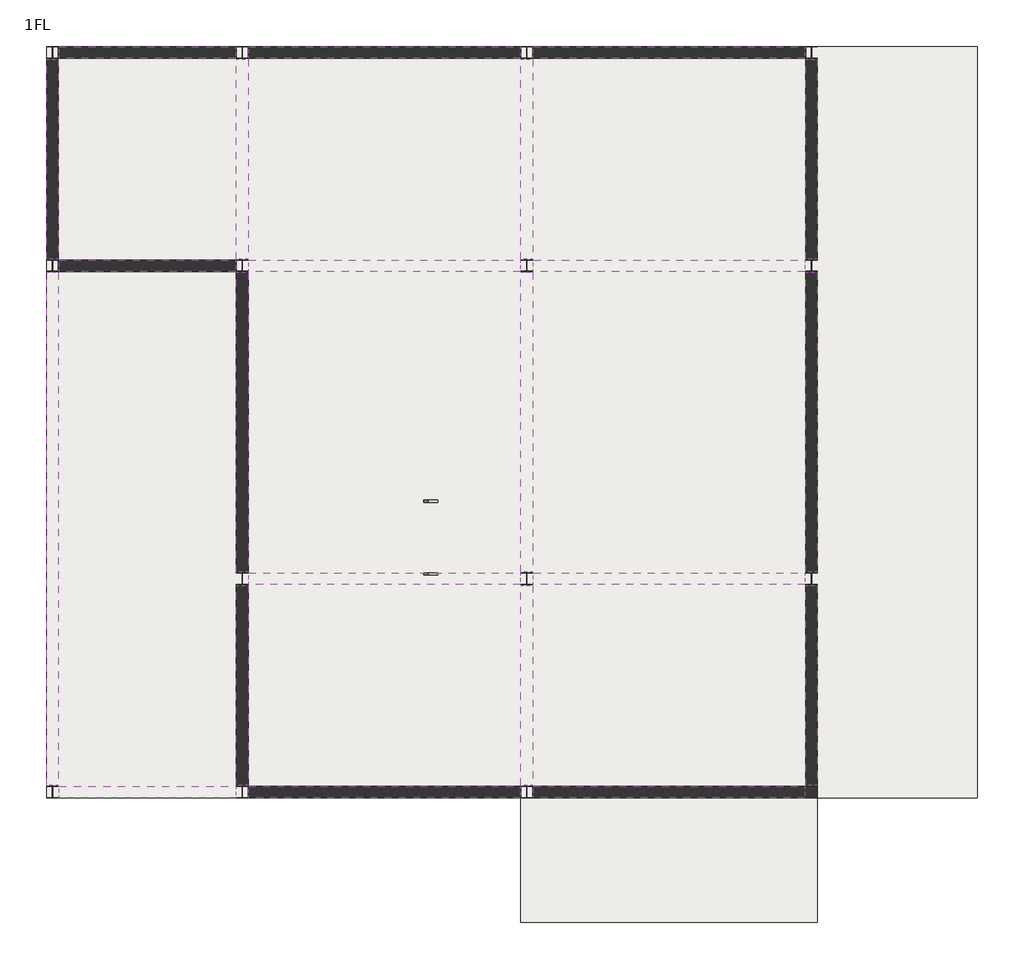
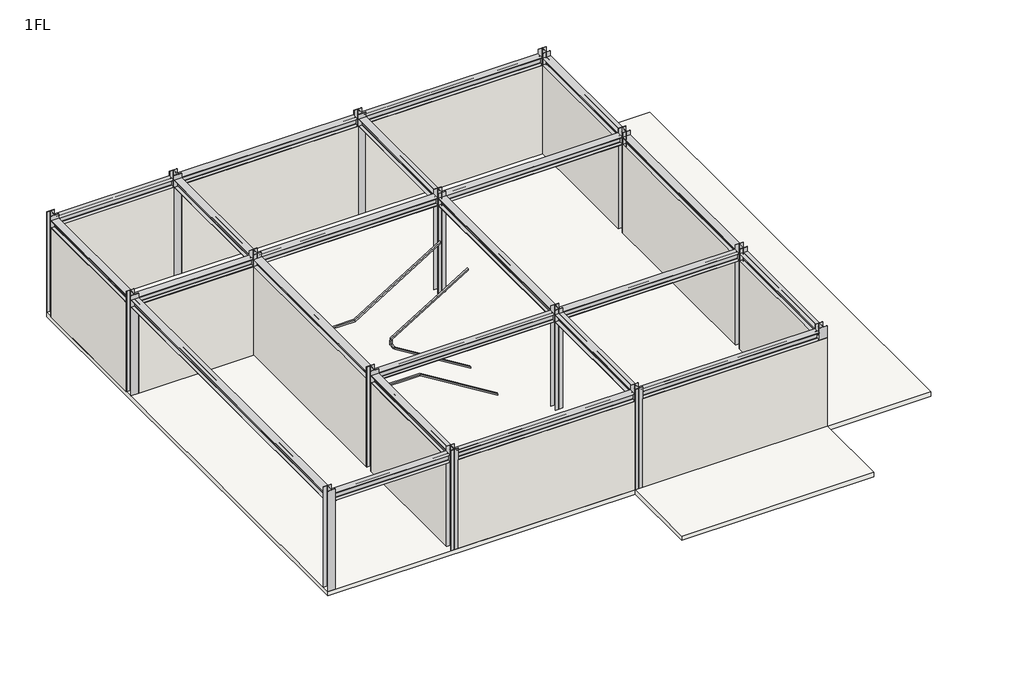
# One storey: 22 beams, 15 columns, 12 walls, 2 railings, 1 slab.
"""IFC4 building model written with IfcOpenShell, lengths in millimetres."""

from ifc_helpers import new_model, si_unit, frame, origin, origin_with_axes, place, context, project, spatial, polyline, outline, extrude, faceted_brep, transform, mapped, element, save
from components import h250x250_c2469310, h250x250_0ab37fdc, h250x250_4f0f0427, h250x250_d6619e70, h250x250_42108681, h250x250_a277a9c0, railing_1abe3a1a, railing_852c1a86

model = new_model("IFC4")

# Units and contexts
model_context = context("Model", 3, world=origin())
ifc_project = project(units=[si_unit("LENGTHUNIT", "METRE", prefix="MILLI")], contexts=[model_context])

# Site, building, storey
site = spatial("IfcSite", under=ifc_project)
building = spatial("IfcBuilding", under=site)
storey = spatial("IfcBuildingStorey", under=building, Name="1FL", Elevation=0.0)

# Beams
placement = place(None, origin())
h250x250_shape = h250x250_c2469310(model_context)
element("IfcBeam", 1, ObjectType="H型鋼樑 : H250x250", at=placement, inside=storey, context=model_context, shape_type="MappedRepresentation", body=[
    mapped(h250x250_shape, transform((-74506.569844, 11233.032646, 3300.0), x_axis=(-1.0, 0.0, 0.0), y_axis=(0.0, -1.0, 0.0), z_axis=(0.0, 0.0, 1.0))),
])
element("IfcBeam", 2, ObjectType="H型鋼樑 : H250x250", at=placement, inside=storey, context=model_context, shape_type="MappedRepresentation", body=[
    mapped(h250x250_shape, transform((-74506.569844, 6733.032646, 3300.0), x_axis=(-1.0, 0.0, 0.0), y_axis=(0.0, -1.0, 0.0), z_axis=(0.0, 0.0, 1.0))),
])
element("IfcBeam", 3, ObjectType="H型鋼樑 : H250x250", at=placement, inside=storey, context=model_context, shape_type="MappedRepresentation", body=[
    mapped(h250x250_shape, transform((-74506.569844, -4366.967354, 3300.0), x_axis=(-1.0, 0.0, 0.0), y_axis=(0.0, -1.0, 0.0), z_axis=(0.0, 0.0, 1.0))),
])
h250x250_2_shape = h250x250_0ab37fdc(model_context)
element("IfcBeam", 4, ObjectType="H型鋼樑 : H250x250", at=placement, inside=storey, context=model_context, shape_type="MappedRepresentation", body=[
    mapped(h250x250_2_shape, transform((-63506.569844, 11233.032646, 3300.0), x_axis=(-1.0, 0.0, 0.0), y_axis=(0.0, -1.0, 0.0), z_axis=(0.0, 0.0, 1.0))),
])
element("IfcBeam", 5, ObjectType="H型鋼樑 : H250x250", at=placement, inside=storey, context=model_context, shape_type="MappedRepresentation", body=[
    mapped(h250x250_2_shape, transform((-69506.569844, 11233.032646, 3300.0), x_axis=(-1.0, 0.0, 0.0), y_axis=(0.0, -1.0, 0.0), z_axis=(0.0, 0.0, 1.0))),
])
element("IfcBeam", 6, ObjectType="H型鋼樑 : H250x250", at=placement, inside=storey, context=model_context, shape_type="MappedRepresentation", body=[
    mapped(h250x250_2_shape, transform((-63506.569844, 6733.032646, 3300.0), x_axis=(-1.0, 0.0, 0.0), y_axis=(0.0, -1.0, 0.0), z_axis=(0.0, 0.0, 1.0))),
])
element("IfcBeam", 7, ObjectType="H型鋼樑 : H250x250", at=placement, inside=storey, context=model_context, shape_type="MappedRepresentation", body=[
    mapped(h250x250_2_shape, transform((-69506.569844, 6733.032646, 3300.0), x_axis=(-1.0, 0.0, 0.0), y_axis=(0.0, -1.0, 0.0), z_axis=(0.0, 0.0, 1.0))),
])
element("IfcBeam", 8, ObjectType="H型鋼樑 : H250x250", at=placement, inside=storey, context=model_context, shape_type="MappedRepresentation", body=[
    mapped(h250x250_2_shape, transform((-63506.569844, 133.032646, 3300.0), x_axis=(-1.0, 0.0, 0.0), y_axis=(0.0, -1.0, 0.0), z_axis=(0.0, 0.0, 1.0))),
])
element("IfcBeam", 9, ObjectType="H型鋼樑 : H250x250", at=placement, inside=storey, context=model_context, shape_type="MappedRepresentation", body=[
    mapped(h250x250_2_shape, transform((-69506.569844, 133.032646, 3300.0), x_axis=(-1.0, 0.0, 0.0), y_axis=(0.0, -1.0, 0.0), z_axis=(0.0, 0.0, 1.0))),
])
element("IfcBeam", 10, ObjectType="H型鋼樑 : H250x250", at=placement, inside=storey, context=model_context, shape_type="MappedRepresentation", body=[
    mapped(h250x250_2_shape, transform((-63506.569844, -4366.967354, 3300.0), x_axis=(-1.0, 0.0, 0.0), y_axis=(0.0, -1.0, 0.0), z_axis=(0.0, 0.0, 1.0))),
])
element("IfcBeam", 11, ObjectType="H型鋼樑 : H250x250", at=placement, inside=storey, context=model_context, shape_type="MappedRepresentation", body=[
    mapped(h250x250_2_shape, transform((-69506.569844, -4366.967354, 3300.0), x_axis=(-1.0, 0.0, 0.0), y_axis=(0.0, -1.0, 0.0), z_axis=(0.0, 0.0, 1.0))),
])
h250x250_3_shape = h250x250_4f0f0427(model_context)
element("IfcBeam", 12, ObjectType="H型鋼樑 : H250x250", at=placement, inside=storey, context=model_context, shape_type="MappedRepresentation", body=[
    mapped(h250x250_3_shape, transform((-76506.569844, 1183.032646, 3300.0), x_axis=(0.0, 1.0, 0.0), y_axis=(-1.0, 0.0, 0.0), z_axis=(0.0, 0.0, 1.0))),
])
h250x250_4_shape = h250x250_d6619e70(model_context)
element("IfcBeam", 13, ObjectType="H型鋼樑 : H250x250", at=placement, inside=storey, context=model_context, shape_type="MappedRepresentation", body=[
    mapped(h250x250_4_shape, transform((-76506.569844, 8983.032646, 3300.0), x_axis=(0.0, 1.0, 0.0), y_axis=(-1.0, 0.0, 0.0), z_axis=(0.0, 0.0, 1.0))),
])
element("IfcBeam", 14, ObjectType="H型鋼樑 : H250x250", at=placement, inside=storey, context=model_context, shape_type="MappedRepresentation", body=[
    mapped(h250x250_4_shape, transform((-72506.569844, -2116.967354, 3300.0), x_axis=(0.0, 1.0, 0.0), y_axis=(-1.0, 0.0, 0.0), z_axis=(0.0, 0.0, 1.0))),
])
element("IfcBeam", 15, ObjectType="H型鋼樑 : H250x250", at=placement, inside=storey, context=model_context, shape_type="MappedRepresentation", body=[
    mapped(h250x250_4_shape, transform((-72506.569844, 8983.032646, 3300.0), x_axis=(0.0, 1.0, 0.0), y_axis=(-1.0, 0.0, 0.0), z_axis=(0.0, 0.0, 1.0))),
])
element("IfcBeam", 16, ObjectType="H型鋼樑 : H250x250", at=placement, inside=storey, context=model_context, shape_type="MappedRepresentation", body=[
    mapped(h250x250_4_shape, transform((-66506.569844, -2116.967354, 3300.0), x_axis=(0.0, 1.0, 0.0), y_axis=(-1.0, 0.0, 0.0), z_axis=(0.0, 0.0, 1.0))),
])
element("IfcBeam", 17, ObjectType="H型鋼樑 : H250x250", at=placement, inside=storey, context=model_context, shape_type="MappedRepresentation", body=[
    mapped(h250x250_4_shape, transform((-66506.569844, 8983.032646, 3300.0), x_axis=(0.0, 1.0, 0.0), y_axis=(-1.0, 0.0, 0.0), z_axis=(0.0, 0.0, 1.0))),
])
element("IfcBeam", 18, ObjectType="H型鋼樑 : H250x250", at=placement, inside=storey, context=model_context, shape_type="MappedRepresentation", body=[
    mapped(h250x250_4_shape, transform((-60506.569844, -2116.967354, 3300.0), x_axis=(0.0, 1.0, 0.0), y_axis=(-1.0, 0.0, 0.0), z_axis=(0.0, 0.0, 1.0))),
])
element("IfcBeam", 19, ObjectType="H型鋼樑 : H250x250", at=placement, inside=storey, context=model_context, shape_type="MappedRepresentation", body=[
    mapped(h250x250_4_shape, transform((-60506.569844, 8983.032646, 3300.0), x_axis=(0.0, 1.0, 0.0), y_axis=(-1.0, 0.0, 0.0), z_axis=(0.0, 0.0, 1.0))),
])
h250x250_5_shape = h250x250_42108681(model_context)
element("IfcBeam", 20, ObjectType="H型鋼樑 : H250x250", at=placement, inside=storey, context=model_context, shape_type="MappedRepresentation", body=[
    mapped(h250x250_5_shape, transform((-72506.569844, 3433.032646, 3300.0), x_axis=(0.0, 1.0, 0.0), y_axis=(-1.0, 0.0, 0.0), z_axis=(0.0, 0.0, 1.0))),
])
element("IfcBeam", 21, ObjectType="H型鋼樑 : H250x250", at=placement, inside=storey, context=model_context, shape_type="MappedRepresentation", body=[
    mapped(h250x250_5_shape, transform((-66506.569844, 3433.032646, 3300.0), x_axis=(0.0, 1.0, 0.0), y_axis=(-1.0, 0.0, 0.0), z_axis=(0.0, 0.0, 1.0))),
])
element("IfcBeam", 22, ObjectType="H型鋼樑 : H250x250", at=placement, inside=storey, context=model_context, shape_type="MappedRepresentation", body=[
    mapped(h250x250_5_shape, transform((-60506.569844, 3433.032646, 3300.0), x_axis=(0.0, 1.0, 0.0), y_axis=(-1.0, 0.0, 0.0), z_axis=(0.0, 0.0, 1.0))),
])

# Columns
h250x250_6_shape = h250x250_a277a9c0(model_context)
element("IfcColumn", 23, ObjectType="H型鋼柱 : H250x250", at=placement, inside=storey, context=model_context, shape_type="MappedRepresentation", body=[
    mapped(h250x250_6_shape, transform((-76506.569844, 11233.032646, 0.0), x_axis=(-1.0, 0.0, 0.0), y_axis=(0.0, -1.0, 0.0), z_axis=(0.0, 0.0, 1.0))),
])
element("IfcColumn", 24, ObjectType="H型鋼柱 : H250x250", at=placement, inside=storey, context=model_context, shape_type="MappedRepresentation", body=[
    mapped(h250x250_6_shape, transform((-72506.569844, 11233.032646, 0.0), x_axis=(-1.0, 0.0, 0.0), y_axis=(0.0, -1.0, 0.0), z_axis=(0.0, 0.0, 1.0))),
])
element("IfcColumn", 25, ObjectType="H型鋼柱 : H250x250", at=placement, inside=storey, context=model_context, shape_type="MappedRepresentation", body=[
    mapped(h250x250_6_shape, transform((-66506.569844, 11233.032646, 0.0), x_axis=(-1.0, 0.0, 0.0), y_axis=(0.0, -1.0, 0.0), z_axis=(0.0, 0.0, 1.0))),
])
element("IfcColumn", 26, ObjectType="H型鋼柱 : H250x250", at=placement, inside=storey, context=model_context, shape_type="MappedRepresentation", body=[
    mapped(h250x250_6_shape, transform((-60506.569844, 11233.032646, 0.0), x_axis=(-1.0, 0.0, 0.0), y_axis=(0.0, -1.0, 0.0), z_axis=(0.0, 0.0, 1.0))),
])
element("IfcColumn", 27, ObjectType="H型鋼柱 : H250x250", at=placement, inside=storey, context=model_context, shape_type="MappedRepresentation", body=[
    mapped(h250x250_6_shape, transform((-76506.569844, 6733.032646, 0.0), x_axis=(-1.0, 0.0, 0.0), y_axis=(0.0, -1.0, 0.0), z_axis=(0.0, 0.0, 1.0))),
])
element("IfcColumn", 28, ObjectType="H型鋼柱 : H250x250", at=placement, inside=storey, context=model_context, shape_type="MappedRepresentation", body=[
    mapped(h250x250_6_shape, transform((-72506.569844, 6733.032646, 0.0), x_axis=(-1.0, 0.0, 0.0), y_axis=(0.0, -1.0, 0.0), z_axis=(0.0, 0.0, 1.0))),
])
element("IfcColumn", 29, ObjectType="H型鋼柱 : H250x250", at=placement, inside=storey, context=model_context, shape_type="MappedRepresentation", body=[
    mapped(h250x250_6_shape, transform((-66506.569844, 6733.032646, 0.0), x_axis=(-1.0, 0.0, 0.0), y_axis=(0.0, -1.0, 0.0), z_axis=(0.0, 0.0, 1.0))),
])
element("IfcColumn", 30, ObjectType="H型鋼柱 : H250x250", at=placement, inside=storey, context=model_context, shape_type="MappedRepresentation", body=[
    mapped(h250x250_6_shape, transform((-60506.569844, 6733.032646, 0.0), x_axis=(-1.0, 0.0, 0.0), y_axis=(0.0, -1.0, 0.0), z_axis=(0.0, 0.0, 1.0))),
])
element("IfcColumn", 31, ObjectType="H型鋼柱 : H250x250", at=placement, inside=storey, context=model_context, shape_type="MappedRepresentation", body=[
    mapped(h250x250_6_shape, transform((-72506.569844, 133.032646, 0.0), x_axis=(-1.0, 0.0, 0.0), y_axis=(0.0, -1.0, 0.0), z_axis=(0.0, 0.0, 1.0))),
])
element("IfcColumn", 32, ObjectType="H型鋼柱 : H250x250", at=placement, inside=storey, context=model_context, shape_type="MappedRepresentation", body=[
    mapped(h250x250_6_shape, transform((-66506.569844, 133.032646, 0.0), x_axis=(-1.0, 0.0, 0.0), y_axis=(0.0, -1.0, 0.0), z_axis=(0.0, 0.0, 1.0))),
])
element("IfcColumn", 33, ObjectType="H型鋼柱 : H250x250", at=placement, inside=storey, context=model_context, shape_type="MappedRepresentation", body=[
    mapped(h250x250_6_shape, transform((-60506.569844, 133.032646, 0.0), x_axis=(-1.0, 0.0, 0.0), y_axis=(0.0, -1.0, 0.0), z_axis=(0.0, 0.0, 1.0))),
])
element("IfcColumn", 34, ObjectType="H型鋼柱 : H250x250", at=placement, inside=storey, context=model_context, shape_type="MappedRepresentation", body=[
    mapped(h250x250_6_shape, transform((-76506.569844, -4366.967354, 0.0), x_axis=(-1.0, 0.0, 0.0), y_axis=(0.0, -1.0, 0.0), z_axis=(0.0, 0.0, 1.0))),
])
element("IfcColumn", 35, ObjectType="H型鋼柱 : H250x250", at=placement, inside=storey, context=model_context, shape_type="MappedRepresentation", body=[
    mapped(h250x250_6_shape, transform((-72506.569844, -4366.967354, 0.0), x_axis=(-1.0, 0.0, 0.0), y_axis=(0.0, -1.0, 0.0), z_axis=(0.0, 0.0, 1.0))),
])
element("IfcColumn", 36, ObjectType="H型鋼柱 : H250x250", at=placement, inside=storey, context=model_context, shape_type="MappedRepresentation", body=[
    mapped(h250x250_6_shape, transform((-66506.569844, -4366.967354, 0.0), x_axis=(-1.0, 0.0, 0.0), y_axis=(0.0, -1.0, 0.0), z_axis=(0.0, 0.0, 1.0))),
])
element("IfcColumn", 37, ObjectType="H型鋼柱 : H250x250", at=placement, inside=storey, context=model_context, shape_type="MappedRepresentation", body=[
    mapped(h250x250_6_shape, transform((-60506.569844, -4366.967354, 0.0), x_axis=(-1.0, 0.0, 0.0), y_axis=(0.0, -1.0, 0.0), z_axis=(0.0, 0.0, 1.0))),
])

# Railings
railing_shape = railing_1abe3a1a(model_context)
element("IfcRailing", 38, ObjectType="900mm 方管", at=placement, inside=storey, context=model_context, shape_type="MappedRepresentation", body=[
    mapped(railing_shape, transform((0.0, 0.0, 0.0), x_axis=(1.0, 0.0, 0.0), y_axis=(0.0, 1.0, 0.0), z_axis=(0.0, 0.0, 1.0))),
])
railing_2_shape = railing_852c1a86(model_context)
element("IfcRailing", 39, ObjectType="900mm 方管", at=placement, inside=storey, context=model_context, shape_type="MappedRepresentation", body=[
    mapped(railing_2_shape, transform((0.0, 0.0, 0.0), x_axis=(1.0, 0.0, 0.0), y_axis=(0.0, 1.0, 0.0), z_axis=(0.0, 0.0, 1.0))),
])

# Slab
element("IfcSlab", 40, ObjectType="一般 - 15cm", at=placement, inside=storey, context=model_context, shape_type="SweptSolid", body=[
    extrude(outline(polyline([(-57006.569844, 11358.032646), (-57006.569844, -4491.967354), (-60381.569844, -4491.967354), (-60381.569844, -7116.967354), (-66631.569844, -7116.967354), (-66631.569844, -4491.967354), (-76631.569844, -4491.967354), (-76631.569844, 11358.032646), (-57006.569844, 11358.032646)])), frame((0.0, 0.0, -150.0), z_axis=(0.0, 0.0, 1.0), x_axis=(1.0, 0.0, 0.0)), (0.0, 0.0, 1.0), 150.0),
])

# Walls
element("IfcWall", 41, ObjectType="1FL外牆 25cm-石頭漆", at=placement, inside=storey, context=model_context, shape_type="SweptSolid", body=[
    extrude(outline(polyline([(-72631.569844, 11108.032646), (-76381.569844, 11108.032646), (-76381.569844, 11358.032646), (-72631.569844, 11358.032646), (-72631.569844, 11108.032646)])), origin_with_axes(), (0.0, 0.0, 1.0), 3050.0),
])
element("IfcWall", 42, ObjectType="1FL外牆 25cm-石頭漆", at=placement, inside=storey, context=model_context, shape_type="SweptSolid", body=[
    extrude(outline(polyline([(-66631.569844, 11108.032646), (-72381.569844, 11108.032646), (-72381.569844, 11358.032646), (-66631.569844, 11358.032646), (-66631.569844, 11108.032646)])), origin_with_axes(), (0.0, 0.0, 1.0), 3050.0),
])
element("IfcWall", 43, ObjectType="1FL外牆 25cm-石頭漆", at=placement, inside=storey, context=model_context, shape_type="SweptSolid", body=[
    extrude(outline(polyline([(-60631.569844, 11108.032646), (-66381.569844, 11108.032646), (-66381.569844, 11358.032646), (-60631.569844, 11358.032646), (-60631.569844, 11108.032646)])), origin_with_axes(), (0.0, 0.0, 1.0), 3050.0),
])
element("IfcWall", 44, ObjectType="1FL外牆 25cm-石頭漆", at=placement, inside=storey, context=model_context, shape_type="SweptSolid", body=[
    extrude(outline(polyline([(-76631.569844, 6858.032646), (-76631.569844, 11108.032646), (-76381.569844, 11108.032646), (-76381.569844, 6858.032646), (-76631.569844, 6858.032646)])), origin_with_axes(), (0.0, 0.0, 1.0), 3050.0),
])
element("IfcWall", 45, ObjectType="1FL外牆 25cm-石頭漆", at=placement, inside=storey, context=model_context, shape_type="SweptSolid", body=[
    extrude(outline(polyline([(-72631.569844, 6608.032646), (-76381.569844, 6608.032646), (-76381.569844, 6858.032646), (-72631.569844, 6858.032646), (-72631.569844, 6608.032646)])), origin_with_axes(), (0.0, 0.0, 1.0), 3050.0),
])
element("IfcWall", 46, ObjectType="1FL外牆 25cm-石頭漆", at=placement, inside=storey, context=model_context, shape_type="SweptSolid", body=[
    extrude(outline(polyline([(-72631.569844, 258.032646), (-72631.569844, 6608.032646), (-72381.569844, 6608.032646), (-72381.569844, 258.032646), (-72631.569844, 258.032646)])), origin_with_axes(), (0.0, 0.0, 1.0), 3050.0),
])
element("IfcWall", 47, ObjectType="1FL外牆 25cm-石頭漆", at=placement, inside=storey, context=model_context, shape_type="SweptSolid", body=[
    extrude(outline(polyline([(-72631.569844, -4241.967354), (-72631.569844, 8.032646), (-72381.569844, 8.032646), (-72381.569844, -4241.967354), (-72631.569844, -4241.967354)])), origin_with_axes(), (0.0, 0.0, 1.0), 3050.0),
])
element("IfcWall", 48, ObjectType="1FL外牆 25cm-石頭漆", at=placement, inside=storey, context=model_context, shape_type="SweptSolid", body=[
    extrude(outline(polyline([(-66631.569844, -4491.967354), (-72381.569844, -4491.967354), (-72381.569844, -4241.967354), (-66631.569844, -4241.967354), (-66631.569844, -4491.967354)])), origin_with_axes(), (0.0, 0.0, 1.0), 3050.0),
])
element("IfcWall", 49, ObjectType="1FL外牆 25cm-石頭漆", at=placement, inside=storey, context=model_context, shape_type="Brep", body=[
    faceted_brep([(-66381.569844, -4491.967354, 0.0), (-60381.569844, -4491.967354, 0.0), (-60381.569844, -4491.967354, 3050.0), (-66381.569844, -4491.967354, 3050.0), (-66381.569844, -4241.967354, 0.0), (-66381.569844, -4241.967354, 3050.0), (-60631.569844, -4241.967354, 3050.0), (-60381.569844, -4241.967354, 3050.0), (-60381.569844, -4241.967354, 0.0), (-60631.569844, -4241.967354, 0.0)], [[[0, 1, 2, 3]], [[4, 5, 6, 7, 8, 9]], [[1, 0, 4, 9, 8]], [[3, 2, 7, 6, 5]], [[0, 3, 5, 4]], [[2, 1, 8, 7]]]),
])
element("IfcWall", 50, ObjectType="1FL外牆 25cm-石頭漆", at=placement, inside=storey, context=model_context, shape_type="SweptSolid", body=[
    extrude(outline(polyline([(-60381.569844, 8.032646), (-60381.569844, -4241.967354), (-60631.569844, -4241.967354), (-60631.569844, 8.032646), (-60381.569844, 8.032646)])), origin_with_axes(), (0.0, 0.0, 1.0), 3050.0),
])
element("IfcWall", 51, ObjectType="1FL外牆 25cm-石頭漆", at=placement, inside=storey, context=model_context, shape_type="SweptSolid", body=[
    extrude(outline(polyline([(-60381.569844, 6608.032646), (-60381.569844, 258.032646), (-60631.569844, 258.032646), (-60631.569844, 6608.032646), (-60381.569844, 6608.032646)])), origin_with_axes(), (0.0, 0.0, 1.0), 3050.0),
])
element("IfcWall", 52, ObjectType="1FL外牆 25cm-石頭漆", at=placement, inside=storey, context=model_context, shape_type="SweptSolid", body=[
    extrude(outline(polyline([(-60381.569844, 11108.032646), (-60381.569844, 6858.032646), (-60631.569844, 6858.032646), (-60631.569844, 11108.032646), (-60381.569844, 11108.032646)])), origin_with_axes(), (0.0, 0.0, 1.0), 3050.0),
])

save(model, "model.ifc")
